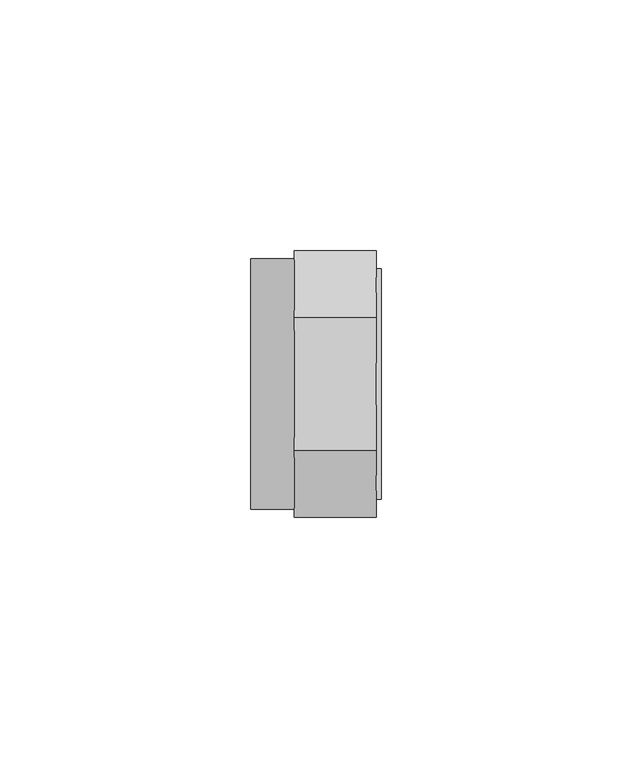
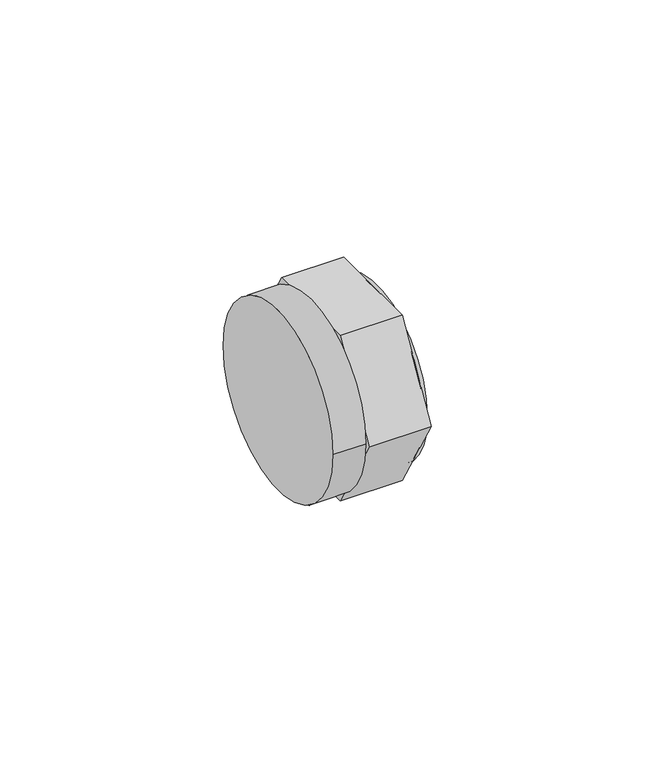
"""IFC4 building model written with IfcOpenShell, lengths in millimetres: pipe fitting geometry, 01011012 : Tampão F."""

from ifc_helpers import new_model, si_unit, point, frame, origin, origin_2d, place, context, project, spatial, polyline, circle_curve, trimmed, segment, composite_curve, outline, extrude, source, transform, mapped, element, save


def pipe_fitting_ed33fb9c(model_context):
    return source(origin(), model_context, "Body", "SweptSolid", [
        extrude(outline(composite_curve([segment(trimmed(circle_curve(origin_2d(), 23.0), [point((-23.0, 0.0))], [point((23.0, 0.0))], False, "CARTESIAN"), True, "CONTINUOUS"), segment(trimmed(circle_curve(origin_2d(), 23.0), [point((23.0, 0.0))], [point((-23.0, 0.0))], False, "CARTESIAN"), True, "CONTINUOUS")], self_intersect=False)), frame((25.0, 0.0, 0.0), z_axis=(1.0, 0.0, 0.0), x_axis=(0.0, 1.0, 0.0)), (0.0, 0.0, 1.0), 1.0),
        extrude(outline(composite_curve([segment(trimmed(circle_curve(origin_2d(), 25.0), [point((-25.0, 0.0))], [point((25.0, 0.0))], False, "CARTESIAN"), True, "CONTINUOUS"), segment(trimmed(circle_curve(origin_2d(), 25.0), [point((25.0, 0.0))], [point((-25.0, 0.0))], False, "CARTESIAN"), True, "CONTINUOUS")], self_intersect=False)), frame((0.0, 0.0, 0.0), z_axis=(1.0, 0.0, 0.0), x_axis=(0.0, 1.0, 0.0)), (0.0, 0.0, 1.0), 8.6666667),
        extrude(outline(polyline([(-13.2790562, 23.0), (13.2790562, 23.0), (26.5581124, 0.0), (13.2790562, -23.0), (-13.2790562, -23.0), (-26.5581124, 0.0), (-13.2790562, 23.0)])), frame((8.6666667, 0.0, 0.0), z_axis=(1.0, 0.0, 0.0), x_axis=(0.0, 1.0, 0.0)), (0.0, 0.0, 1.0), 16.3333333),
    ])


if __name__ == "__main__":
    model = new_model("IFC4")
    model_context = context("Model", 3, world=origin())
    ifc_project = project(units=[si_unit("LENGTHUNIT", "METRE", prefix="MILLI")], contexts=[model_context])
    site = spatial("IfcSite", under=ifc_project)
    building = spatial("IfcBuilding", under=site)
    placement = place(None, origin())
    pipe_fitting_shape = pipe_fitting_ed33fb9c(model_context)
    element("IfcPipeFitting", 1, ObjectType="01011012 : Tampão F", at=placement, inside=building, context=model_context, shape_type="MappedRepresentation", body=[
        mapped(pipe_fitting_shape, transform((0.0, 0.0, 0.0), x_axis=(1.0, 0.0, 0.0), y_axis=(0.0, 1.0, 0.0), z_axis=(0.0, 0.0, 1.0))),
    ])
    save(model, "model.ifc")
